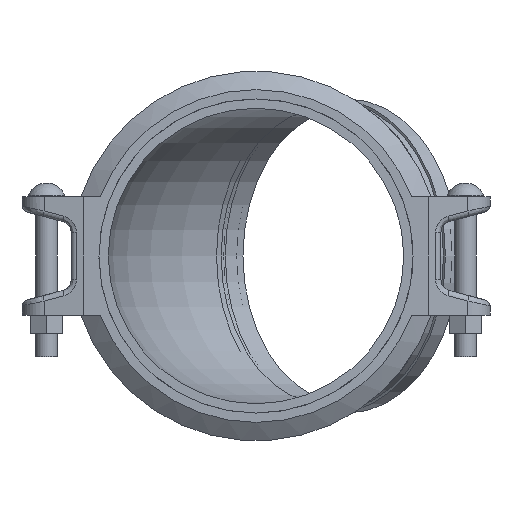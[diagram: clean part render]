
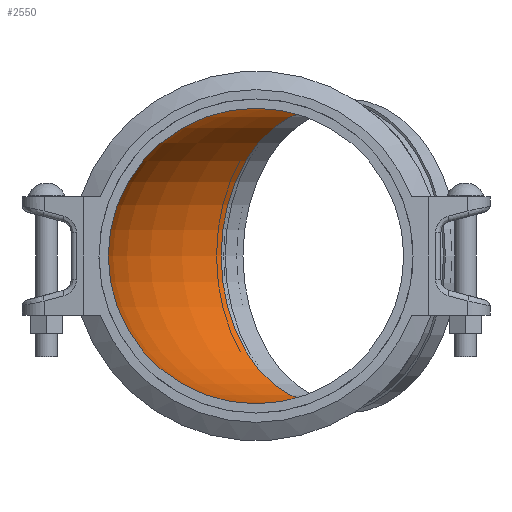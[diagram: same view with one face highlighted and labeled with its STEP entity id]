
A CAD part, left-side view. The second image highlights one B-rep face of the part: STEP entity #2550.
In plain terms, the highlighted toroidal (fillet/blend) face has major radius 245.284 mm and minor radius 152.4 mm.
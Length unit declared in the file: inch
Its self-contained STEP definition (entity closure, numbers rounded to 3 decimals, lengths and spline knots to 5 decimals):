
#102=TOROIDAL_SURFACE('',#2808,9.65685,6.);
#545=FACE_OUTER_BOUND('',#694,.T.);
#694=EDGE_LOOP('',(#1634,#1635,#1636,#1637,#1638,#1639));
#873=CIRCLE('',#2809,6.);
#874=CIRCLE('',#2810,6.);
#875=CIRCLE('',#2811,3.65685);
#876=CIRCLE('',#2812,6.);
#877=CIRCLE('',#2813,6.);
#1015=VERTEX_POINT('',#3952);
#1016=VERTEX_POINT('',#3953);
#1017=VERTEX_POINT('',#3956);
#1018=VERTEX_POINT('',#3958);
#1261=EDGE_CURVE('',#1015,#1016,#873,.T.);
#1262=EDGE_CURVE('',#1016,#1015,#874,.T.);
#1263=EDGE_CURVE('',#1015,#1017,#875,.T.);
#1264=EDGE_CURVE('',#1017,#1018,#876,.T.);
#1265=EDGE_CURVE('',#1018,#1017,#877,.T.);
#1634=ORIENTED_EDGE('',*,*,#1261,.T.);
#1635=ORIENTED_EDGE('',*,*,#1262,.T.);
#1636=ORIENTED_EDGE('',*,*,#1263,.T.);
#1637=ORIENTED_EDGE('',*,*,#1264,.T.);
#1638=ORIENTED_EDGE('',*,*,#1265,.T.);
#1639=ORIENTED_EDGE('',*,*,#1263,.F.);
#2550=ADVANCED_FACE('',(#545),#102,.F.);
#2808=AXIS2_PLACEMENT_3D('',#3951,#3150,#3151);
#2809=AXIS2_PLACEMENT_3D('',#3954,#3152,#3153);
#2810=AXIS2_PLACEMENT_3D('',#3955,#3154,#3155);
#2811=AXIS2_PLACEMENT_3D('',#3957,#3156,#3157);
#2812=AXIS2_PLACEMENT_3D('',#3959,#3158,#3159);
#2813=AXIS2_PLACEMENT_3D('',#3960,#3160,#3161);
#3150=DIRECTION('center_axis',(0.,0.,-1.));
#3151=DIRECTION('ref_axis',(-1.,0.,0.));
#3152=DIRECTION('center_axis',(0.,-1.,0.));
#3153=DIRECTION('ref_axis',(1.,0.,0.));
#3154=DIRECTION('center_axis',(0.,-1.,0.));
#3155=DIRECTION('ref_axis',(1.,0.,0.));
#3156=DIRECTION('center_axis',(0.,0.,-1.));
#3157=DIRECTION('ref_axis',(-1.,0.,0.));
#3158=DIRECTION('center_axis',(0.707,0.707,0.));
#3159=DIRECTION('ref_axis',(0.707,-0.707,0.));
#3160=DIRECTION('center_axis',(0.707,0.707,0.));
#3161=DIRECTION('ref_axis',(0.707,-0.707,0.));
#3951=CARTESIAN_POINT('Origin',(9.65685,1.25,0.));
#3952=CARTESIAN_POINT('',(6.,1.25,0.));
#3953=CARTESIAN_POINT('',(-6.,1.25,0.));
#3954=CARTESIAN_POINT('Origin',(0.,1.25,0.));
#3955=CARTESIAN_POINT('Origin',(0.,1.25,0.));
#3956=CARTESIAN_POINT('',(7.07107,3.83579,0.));
#3957=CARTESIAN_POINT('Origin',(9.65685,1.25,0.));
#3958=CARTESIAN_POINT('',(-1.41421,12.32107,0.));
#3959=CARTESIAN_POINT('Origin',(2.82843,8.07843,0.));
#3960=CARTESIAN_POINT('Origin',(2.82843,8.07843,0.));
